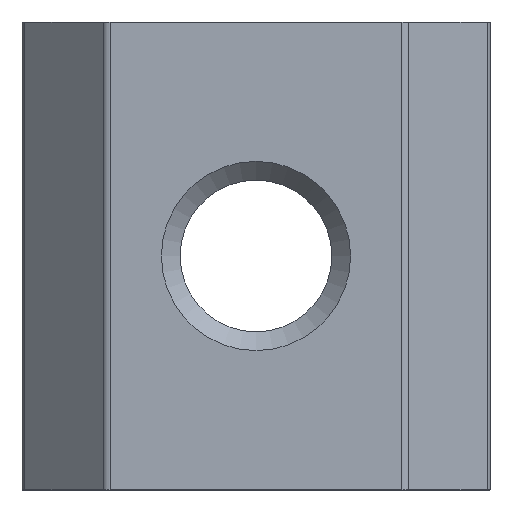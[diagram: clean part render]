
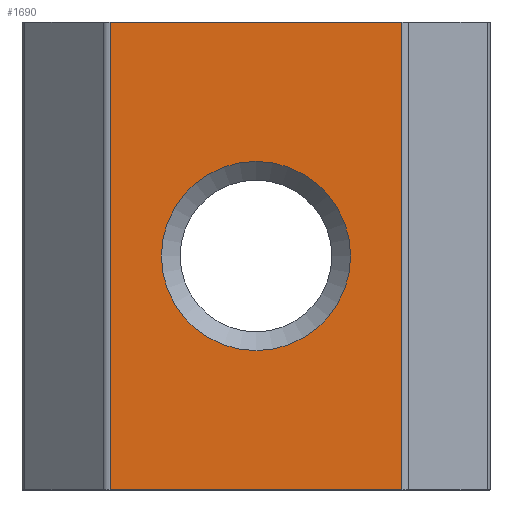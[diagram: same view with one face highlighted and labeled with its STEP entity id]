
A CAD part, front view. The second image highlights one B-rep face of the part: STEP entity #1690.
In plain terms, the highlighted planar face has unit normal (0, -1, 0).
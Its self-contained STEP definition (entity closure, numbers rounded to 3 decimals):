
#898 = VERTEX_POINT('',#899);
#899 = CARTESIAN_POINT('',(-3.117,-2.55,-4.99));
#914 = CYLINDRICAL_SURFACE('',#915,0.01);
#915 = AXIS2_PLACEMENT_3D('',#916,#917,#918);
#916 = CARTESIAN_POINT('',(-1.6,-2.54,-4.99));
#917 = DIRECTION('',(-1.,0.,0.));
#918 = DIRECTION('',(-0.,-0.707,-0.707));
#941 = CYLINDRICAL_SURFACE('',#942,0.2);
#942 = AXIS2_PLACEMENT_3D('',#943,#944,#945);
#943 = CARTESIAN_POINT('',(-3.117,-2.35,0.));
#944 = DIRECTION('',(0.,0.,-1.));
#945 = DIRECTION('',(-0.383,-0.924,-0.));
#982 = VERTEX_POINT('',#983);
#983 = CARTESIAN_POINT('',(3.117,-2.55,-4.99));
#1010 = EDGE_CURVE('',#982,#898,#1011,.T.);
#1011 = SURFACE_CURVE('',#1012,(#1016,#1023),.PCURVE_S1.);
#1012 = LINE('',#1013,#1014);
#1013 = CARTESIAN_POINT('',(-1.6,-2.55,-4.99));
#1014 = VECTOR('',#1015,1.);
#1015 = DIRECTION('',(-1.,0.,0.));
#1016 = PCURVE('',#914,#1017);
#1017 = DEFINITIONAL_REPRESENTATION('',(#1018),#1022);
#1018 = LINE('',#1019,#1020);
#1019 = CARTESIAN_POINT('',(7.069,0.));
#1020 = VECTOR('',#1021,1.);
#1021 = DIRECTION('',(0.,1.));
#1022 = ( GEOMETRIC_REPRESENTATION_CONTEXT(2) 
PARAMETRIC_REPRESENTATION_CONTEXT() REPRESENTATION_CONTEXT('2D SPACE',''
  ) );
#1023 = PCURVE('',#1024,#1029);
#1024 = PLANE('',#1025);
#1025 = AXIS2_PLACEMENT_3D('',#1026,#1027,#1028);
#1026 = CARTESIAN_POINT('',(-3.2,-2.55,0.));
#1027 = DIRECTION('',(0.,-1.,0.));
#1028 = DIRECTION('',(1.,0.,0.));
#1029 = DEFINITIONAL_REPRESENTATION('',(#1030),#1034);
#1030 = LINE('',#1031,#1032);
#1031 = CARTESIAN_POINT('',(1.6,-4.99));
#1032 = VECTOR('',#1033,1.);
#1033 = DIRECTION('',(-1.,0.));
#1034 = ( GEOMETRIC_REPRESENTATION_CONTEXT(2) 
PARAMETRIC_REPRESENTATION_CONTEXT() REPRESENTATION_CONTEXT('2D SPACE',''
  ) );
#1107 = CYLINDRICAL_SURFACE('',#1108,0.2);
#1108 = AXIS2_PLACEMENT_3D('',#1109,#1110,#1111);
#1109 = CARTESIAN_POINT('',(3.117,-2.35,0.));
#1110 = DIRECTION('',(0.,0.,-1.));
#1111 = DIRECTION('',(0.383,-0.924,0.));
#1690 = ADVANCED_FACE('',(#1691,#1722),#1024,.T.);
#1691 = FACE_BOUND('',#1692,.T.);
#1692 = EDGE_LOOP('',(#1693));
#1693 = ORIENTED_EDGE('',*,*,#1694,.F.);
#1694 = EDGE_CURVE('',#1695,#1695,#1697,.T.);
#1695 = VERTEX_POINT('',#1696);
#1696 = CARTESIAN_POINT('',(-2.021,-2.55,0.));
#1697 = SURFACE_CURVE('',#1698,(#1703,#1710),.PCURVE_S1.);
#1698 = CIRCLE('',#1699,2.021);
#1699 = AXIS2_PLACEMENT_3D('',#1700,#1701,#1702);
#1700 = CARTESIAN_POINT('',(0.,-2.55,0.));
#1701 = DIRECTION('',(0.,-1.,0.));
#1702 = DIRECTION('',(1.,0.,0.));
#1703 = PCURVE('',#1024,#1704);
#1704 = DEFINITIONAL_REPRESENTATION('',(#1705),#1709);
#1705 = CIRCLE('',#1706,2.021);
#1706 = AXIS2_PLACEMENT_2D('',#1707,#1708);
#1707 = CARTESIAN_POINT('',(3.2,0.));
#1708 = DIRECTION('',(1.,0.));
#1709 = ( GEOMETRIC_REPRESENTATION_CONTEXT(2) 
PARAMETRIC_REPRESENTATION_CONTEXT() REPRESENTATION_CONTEXT('2D SPACE',''
  ) );
#1710 = PCURVE('',#1711,#1716);
#1711 = CONICAL_SURFACE('',#1712,1.821,0.785);
#1712 = AXIS2_PLACEMENT_3D('',#1713,#1714,#1715);
#1713 = CARTESIAN_POINT('',(0.,-2.35,0.));
#1714 = DIRECTION('',(0.,-1.,0.));
#1715 = DIRECTION('',(1.,0.,0.));
#1716 = DEFINITIONAL_REPRESENTATION('',(#1717),#1721);
#1717 = LINE('',#1718,#1719);
#1718 = CARTESIAN_POINT('',(0.,0.2));
#1719 = VECTOR('',#1720,1.);
#1720 = DIRECTION('',(1.,0.));
#1721 = ( GEOMETRIC_REPRESENTATION_CONTEXT(2) 
PARAMETRIC_REPRESENTATION_CONTEXT() REPRESENTATION_CONTEXT('2D SPACE',''
  ) );
#1722 = FACE_BOUND('',#1723,.T.);
#1723 = EDGE_LOOP('',(#1724,#1725,#1748,#1776));
#1724 = ORIENTED_EDGE('',*,*,#1010,.F.);
#1725 = ORIENTED_EDGE('',*,*,#1726,.F.);
#1726 = EDGE_CURVE('',#1727,#982,#1729,.T.);
#1727 = VERTEX_POINT('',#1728);
#1728 = CARTESIAN_POINT('',(3.117,-2.55,4.99));
#1729 = SURFACE_CURVE('',#1730,(#1734,#1741),.PCURVE_S1.);
#1730 = LINE('',#1731,#1732);
#1731 = CARTESIAN_POINT('',(3.117,-2.55,0.));
#1732 = VECTOR('',#1733,1.);
#1733 = DIRECTION('',(0.,0.,-1.));
#1734 = PCURVE('',#1024,#1735);
#1735 = DEFINITIONAL_REPRESENTATION('',(#1736),#1740);
#1736 = LINE('',#1737,#1738);
#1737 = CARTESIAN_POINT('',(6.317,0.));
#1738 = VECTOR('',#1739,1.);
#1739 = DIRECTION('',(0.,-1.));
#1740 = ( GEOMETRIC_REPRESENTATION_CONTEXT(2) 
PARAMETRIC_REPRESENTATION_CONTEXT() REPRESENTATION_CONTEXT('2D SPACE',''
  ) );
#1741 = PCURVE('',#1107,#1742);
#1742 = DEFINITIONAL_REPRESENTATION('',(#1743),#1747);
#1743 = LINE('',#1744,#1745);
#1744 = CARTESIAN_POINT('',(0.393,0.));
#1745 = VECTOR('',#1746,1.);
#1746 = DIRECTION('',(0.,1.));
#1747 = ( GEOMETRIC_REPRESENTATION_CONTEXT(2) 
PARAMETRIC_REPRESENTATION_CONTEXT() REPRESENTATION_CONTEXT('2D SPACE',''
  ) );
#1748 = ORIENTED_EDGE('',*,*,#1749,.F.);
#1749 = EDGE_CURVE('',#1750,#1727,#1752,.T.);
#1750 = VERTEX_POINT('',#1751);
#1751 = CARTESIAN_POINT('',(-3.117,-2.55,4.99));
#1752 = SURFACE_CURVE('',#1753,(#1757,#1764),.PCURVE_S1.);
#1753 = LINE('',#1754,#1755);
#1754 = CARTESIAN_POINT('',(-1.6,-2.55,4.99));
#1755 = VECTOR('',#1756,1.);
#1756 = DIRECTION('',(1.,0.,0.));
#1757 = PCURVE('',#1024,#1758);
#1758 = DEFINITIONAL_REPRESENTATION('',(#1759),#1763);
#1759 = LINE('',#1760,#1761);
#1760 = CARTESIAN_POINT('',(1.6,4.99));
#1761 = VECTOR('',#1762,1.);
#1762 = DIRECTION('',(1.,0.));
#1763 = ( GEOMETRIC_REPRESENTATION_CONTEXT(2) 
PARAMETRIC_REPRESENTATION_CONTEXT() REPRESENTATION_CONTEXT('2D SPACE',''
  ) );
#1764 = PCURVE('',#1765,#1770);
#1765 = CYLINDRICAL_SURFACE('',#1766,0.01);
#1766 = AXIS2_PLACEMENT_3D('',#1767,#1768,#1769);
#1767 = CARTESIAN_POINT('',(-1.6,-2.54,4.99));
#1768 = DIRECTION('',(1.,0.,0.));
#1769 = DIRECTION('',(0.,-0.707,0.707));
#1770 = DEFINITIONAL_REPRESENTATION('',(#1771),#1775);
#1771 = LINE('',#1772,#1773);
#1772 = CARTESIAN_POINT('',(7.069,0.));
#1773 = VECTOR('',#1774,1.);
#1774 = DIRECTION('',(0.,1.));
#1775 = ( GEOMETRIC_REPRESENTATION_CONTEXT(2) 
PARAMETRIC_REPRESENTATION_CONTEXT() REPRESENTATION_CONTEXT('2D SPACE',''
  ) );
#1776 = ORIENTED_EDGE('',*,*,#1777,.F.);
#1777 = EDGE_CURVE('',#898,#1750,#1778,.T.);
#1778 = SURFACE_CURVE('',#1779,(#1783,#1790),.PCURVE_S1.);
#1779 = LINE('',#1780,#1781);
#1780 = CARTESIAN_POINT('',(-3.117,-2.55,0.));
#1781 = VECTOR('',#1782,1.);
#1782 = DIRECTION('',(0.,0.,1.));
#1783 = PCURVE('',#1024,#1784);
#1784 = DEFINITIONAL_REPRESENTATION('',(#1785),#1789);
#1785 = LINE('',#1786,#1787);
#1786 = CARTESIAN_POINT('',(0.083,0.));
#1787 = VECTOR('',#1788,1.);
#1788 = DIRECTION('',(0.,1.));
#1789 = ( GEOMETRIC_REPRESENTATION_CONTEXT(2) 
PARAMETRIC_REPRESENTATION_CONTEXT() REPRESENTATION_CONTEXT('2D SPACE',''
  ) );
#1790 = PCURVE('',#941,#1791);
#1791 = DEFINITIONAL_REPRESENTATION('',(#1792),#1796);
#1792 = LINE('',#1793,#1794);
#1793 = CARTESIAN_POINT('',(5.89,0.));
#1794 = VECTOR('',#1795,1.);
#1795 = DIRECTION('',(0.,-1.));
#1796 = ( GEOMETRIC_REPRESENTATION_CONTEXT(2) 
PARAMETRIC_REPRESENTATION_CONTEXT() REPRESENTATION_CONTEXT('2D SPACE',''
  ) );
